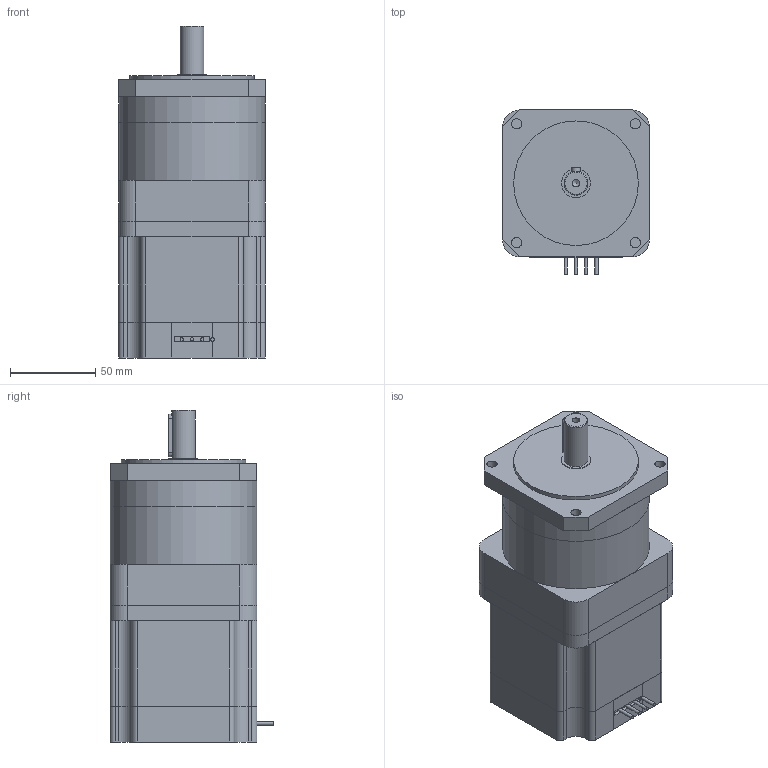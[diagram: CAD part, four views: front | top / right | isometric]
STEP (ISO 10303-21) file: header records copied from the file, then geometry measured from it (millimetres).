
FILE_DESCRIPTION(/* description */ (''),/* implementation_level */ '2;1');
FILE_NAME(/* name */ 'T86PG003-D44-0480.stp',/* time_stamp */ '2018-08-29T14:55:30+08:00',/* author */ (''),/* organization */ (''),/* preprocessor_version */ 'ST-DEVELOPER v11',/* originating_system */ 'SIEMENS UGS NX 6.0',/* authorisation */ '');
FILE_SCHEMA (('CONFIG_CONTROL_DESIGN'));
Length unit declared in the file: millimetre
Products named in the file (1): T86PG003-D44-0480
Bounding box: 86 x 96 x 194.5 mm (x, y, z)
Volume: 1091570.4 mm3; surface area: 135284.9 mm2
Topology: 6 solids, 6 shells, 126 faces, 316 edges, 210 vertices
Faces by surface type: plane 76, cylinder 48, cone 1, torus 1
Full cylindrical faces by diameter (mm): 2 x4, 4.5 x1, 6 x4, 14 x1, 17 x1, 73 x1, 86 x2
Entity records: 3792 total; most frequent: CARTESIAN_POINT 684, DIRECTION 644, ORIENTED_EDGE 586, EDGE_CURVE 293, AXIS2_PLACEMENT_3D 226, VERTEX_POINT 204, LINE 192, VECTOR 192
